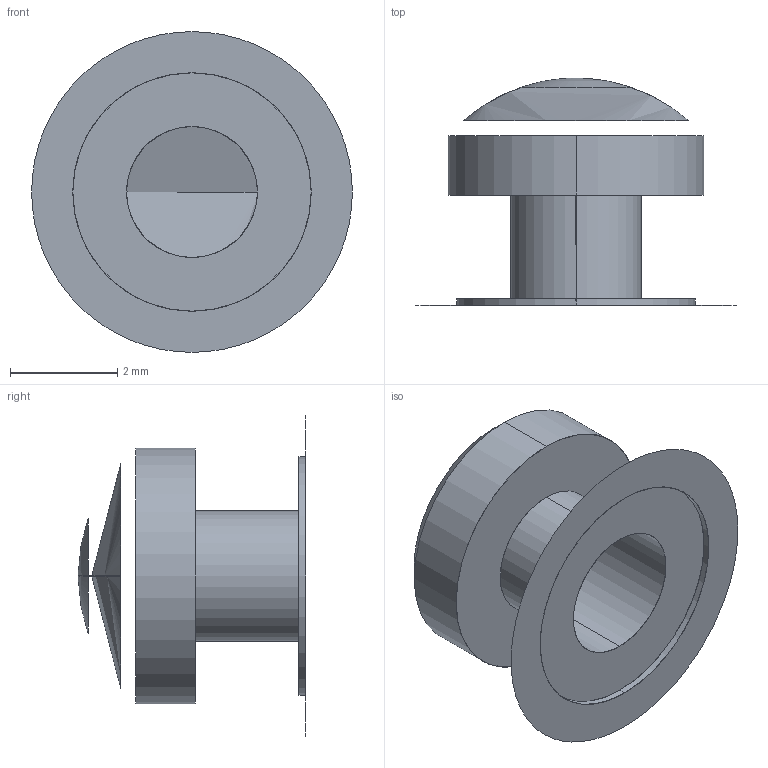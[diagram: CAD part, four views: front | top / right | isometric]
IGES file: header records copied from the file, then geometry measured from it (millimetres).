
Start section: SolidWorks IGES file using analytic representation for surfaces
Global section: file name: D:\Solid_parts\MECHeDESIGN\Bal-Tec\Catalog 105-A\Distribution\IGES\250-TBR-CB.IGS; native system: SolidWorks 2005 by SolidWorks Corporation; preprocessor: SolidWorks 2005 by SolidWorks Corporation; author: rvillegas; date: 061205.184807; units: inch
Bounding box: 5.98 x 4.24 x 5.98 mm (x, y, z)
Surface area: 89.3 mm2 (no closed solid volume)
Topology: 0 solids, 0 shells, 11 faces, 228 edges, 228 vertices
Faces by surface type: revolution 8, bspline 3
